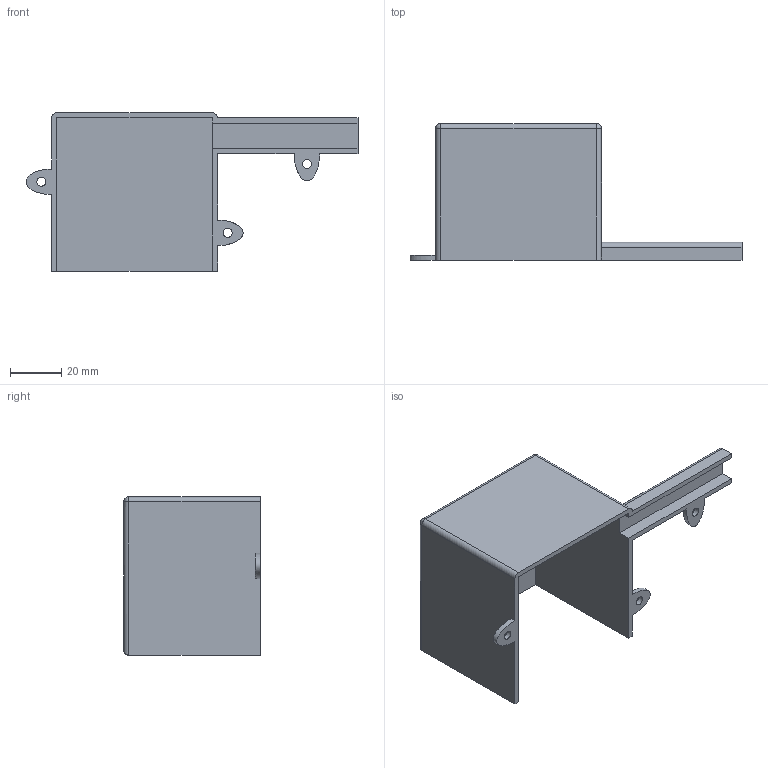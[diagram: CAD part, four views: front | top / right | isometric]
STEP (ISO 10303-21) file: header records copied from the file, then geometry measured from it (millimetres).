
FILE_DESCRIPTION(/* description */ (''),/* implementation_level */ '2;1');
FILE_NAME(/* name */ 'Z:\Flow\Inventor\Spritzenpumpe\Motorgehäuse links.stp',/* time_stamp */ '2018-09-10T16:24:02+02:00',/* author */ ('JN'),/* organization */ (''),/* preprocessor_version */ 'ST-DEVELOPER v16.13',/* originating_system */ 'Autodesk Inventor 2018',/* authorisation */ '');
FILE_SCHEMA (('AUTOMOTIVE_DESIGN { 1 0 10303 214 3 1 1 }'));
Length unit declared in the file: millimetre
Products named in the file (1): Motorgehäuse links
Bounding box: 129.99 x 53.5 x 62 mm (x, y, z)
Volume: 29677.1 mm3; surface area: 30776.3 mm2
Topology: 1 solids, 1 shells, 38 faces, 100 edges, 64 vertices
Faces by surface type: plane 22, cylinder 11, bspline 3, sphere 2
Full cylindrical faces by diameter (mm): 3.5 x3
Entity records: 1190 total; most frequent: CARTESIAN_POINT 221, DIRECTION 192, ORIENTED_EDGE 188, EDGE_CURVE 94, LINE 68, VECTOR 68, AXIS2_PLACEMENT_3D 62, VERTEX_POINT 61
